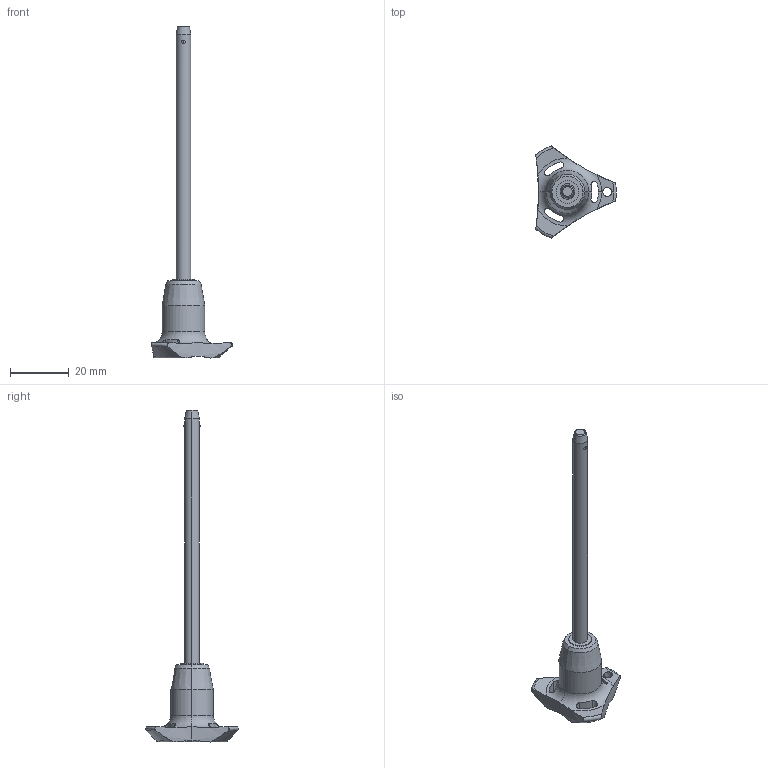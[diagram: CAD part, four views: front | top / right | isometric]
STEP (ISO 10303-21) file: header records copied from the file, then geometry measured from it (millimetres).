
FILE_DESCRIPTION (( 'STEP AP203' ), '1' );
FILE_NAME ('QR1734.M05-080-S.step', '2025-11-12T14:14:43', ( '' ), ( '' ), 'SwSTEP 2.0', 'SolidWorks 2019', '' );
FILE_SCHEMA (( 'CONFIG_CONTROL_DESIGN' ));
Length unit declared in the file: millimetre
Products named in the file (1): QR1734.M05-080-S
Bounding box: 27.4 x 31.31 x 112.7 mm (x, y, z)
Volume: 6438.8 mm3; surface area: 3764.9 mm2
Topology: 1 solids, 1 shells, 66 faces, 181 edges, 115 vertices
Faces by surface type: cylinder 30, cone 14, torus 12, sphere 6, plane 4
Entity records: 2693 total; most frequent: CARTESIAN_POINT 981, ORIENTED_EDGE 362, DIRECTION 332, EDGE_CURVE 181, AXIS2_PLACEMENT_3D 148, VERTEX_POINT 115, CIRCLE 81, EDGE_LOOP 72
